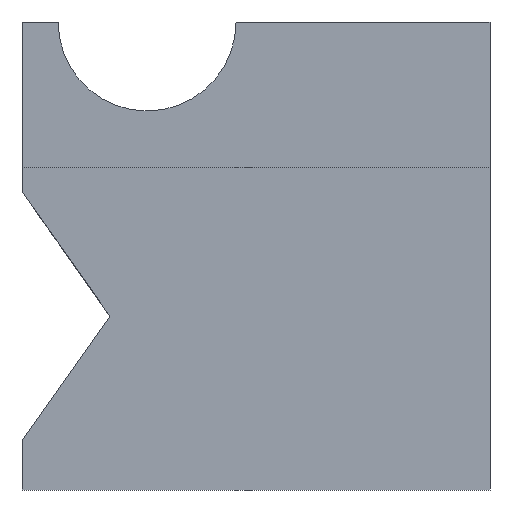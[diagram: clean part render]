
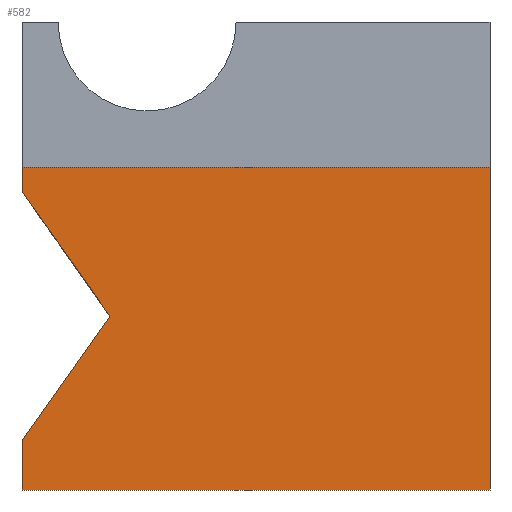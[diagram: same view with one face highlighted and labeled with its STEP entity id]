
A CAD part, front view. The second image highlights one B-rep face of the part: STEP entity #582.
In plain terms, the highlighted planar face has unit normal (0, -1, 0).
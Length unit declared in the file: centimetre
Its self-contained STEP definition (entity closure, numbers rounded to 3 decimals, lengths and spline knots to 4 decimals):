
#1 = CARTESIAN_POINT ( 'NONE',  ( 1000., 0., 1000. ) ) ;
#7 = LINE ( 'NONE', #449, #260 ) ;
#43 = CARTESIAN_POINT ( 'NONE',  ( 1000., 0., 0. ) ) ;
#45 = DIRECTION ( 'NONE',  ( -0.576, 0., -0.817 ) ) ;
#59 = CARTESIAN_POINT ( 'NONE',  ( 1000., 0., 689.2994 ) ) ;
#61 = VECTOR ( 'NONE', #146, 100. ) ;
#62 = CARTESIAN_POINT ( 'NONE',  ( 0., 0., 1000. ) ) ;
#88 = EDGE_LOOP ( 'NONE', ( #181, #515, #292, #479, #536, #516, #197 ) ) ;
#101 = LINE ( 'NONE', #1, #602 ) ;
#109 = LINE ( 'NONE', #558, #61 ) ;
#110 = CARTESIAN_POINT ( 'NONE',  ( 0., 0., 105.5699 ) ) ;
#112 = CARTESIAN_POINT ( 'NONE',  ( 0., 0., 689.2994 ) ) ;
#142 = DIRECTION ( 'NONE',  ( 0.576, 0., -0.817 ) ) ;
#146 = DIRECTION ( 'NONE',  ( 0., 0., -1. ) ) ;
#152 = VECTOR ( 'NONE', #547, 100. ) ;
#161 = CARTESIAN_POINT ( 'NONE',  ( 0., 0., 1000. ) ) ;
#164 = CARTESIAN_POINT ( 'NONE',  ( 187.692, 0., 371.6823 ) ) ;
#168 = VECTOR ( 'NONE', #45, 100. ) ;
#181 = ORIENTED_EDGE ( 'NONE', *, *, #529, .T. ) ;
#197 = ORIENTED_EDGE ( 'NONE', *, *, #485, .T. ) ;
#241 = VERTEX_POINT ( 'NONE', #331 ) ;
#248 = DIRECTION ( 'NONE',  ( 0., 0., -1. ) ) ;
#250 = EDGE_CURVE ( 'NONE', #312, #263, #622, .T. ) ;
#260 = VECTOR ( 'NONE', #142, 100. ) ;
#263 = VERTEX_POINT ( 'NONE', #43 ) ;
#292 = ORIENTED_EDGE ( 'NONE', *, *, #466, .T. ) ;
#297 = EDGE_CURVE ( 'NONE', #609, #241, #625, .T. ) ;
#298 = CARTESIAN_POINT ( 'NONE',  ( 0., 0., 637.7947 ) ) ;
#307 = DIRECTION ( 'NONE',  ( 0., 0., 1. ) ) ;
#312 = VERTEX_POINT ( 'NONE', #537 ) ;
#331 = CARTESIAN_POINT ( 'NONE',  ( 0., 0., 105.5699 ) ) ;
#373 = DIRECTION ( 'NONE',  ( 1., 0., 0. ) ) ;
#388 = LINE ( 'NONE', #62, #562 ) ;
#395 = DIRECTION ( 'NONE',  ( 0., 0., -1. ) ) ;
#409 = FACE_OUTER_BOUND ( 'NONE', #88, .T. ) ;
#449 = CARTESIAN_POINT ( 'NONE',  ( 187.692, 0., 371.6823 ) ) ;
#456 = VERTEX_POINT ( 'NONE', #59 ) ;
#463 = VERTEX_POINT ( 'NONE', #112 ) ;
#466 = EDGE_CURVE ( 'NONE', #241, #312, #388, .T. ) ;
#479 = ORIENTED_EDGE ( 'NONE', *, *, #250, .T. ) ;
#485 = EDGE_CURVE ( 'NONE', #463, #617, #109, .T. ) ;
#496 = AXIS2_PLACEMENT_3D ( 'NONE', #161, #561, #307 ) ;
#515 = ORIENTED_EDGE ( 'NONE', *, *, #297, .T. ) ;
#516 = ORIENTED_EDGE ( 'NONE', *, *, #613, .F. ) ;
#524 = CARTESIAN_POINT ( 'NONE',  ( 0., 0., 0. ) ) ;
#529 = EDGE_CURVE ( 'NONE', #617, #609, #7, .T. ) ;
#536 = ORIENTED_EDGE ( 'NONE', *, *, #614, .F. ) ;
#537 = CARTESIAN_POINT ( 'NONE',  ( 0., 0., 0. ) ) ;
#547 = DIRECTION ( 'NONE',  ( 1., 0., 0. ) ) ;
#558 = CARTESIAN_POINT ( 'NONE',  ( 0., 0., 1000. ) ) ;
#561 = DIRECTION ( 'NONE',  ( 0., 1., 0. ) ) ;
#562 = VECTOR ( 'NONE', #248, 100. ) ;
#566 = LINE ( 'NONE', #596, #152 ) ;
#568 = VECTOR ( 'NONE', #373, 100. ) ;
#582 = ADVANCED_FACE ( 'NONE', ( #409 ), #607, .F. ) ;
#596 = CARTESIAN_POINT ( 'NONE',  ( 0., 0., 689.2994 ) ) ;
#602 = VECTOR ( 'NONE', #395, 100. ) ;
#607 = PLANE ( 'NONE',  #496 ) ;
#609 = VERTEX_POINT ( 'NONE', #164 ) ;
#613 = EDGE_CURVE ( 'NONE', #463, #456, #566, .T. ) ;
#614 = EDGE_CURVE ( 'NONE', #456, #263, #101, .T. ) ;
#617 = VERTEX_POINT ( 'NONE', #298 ) ;
#622 = LINE ( 'NONE', #524, #568 ) ;
#625 = LINE ( 'NONE', #110, #168 ) ;
